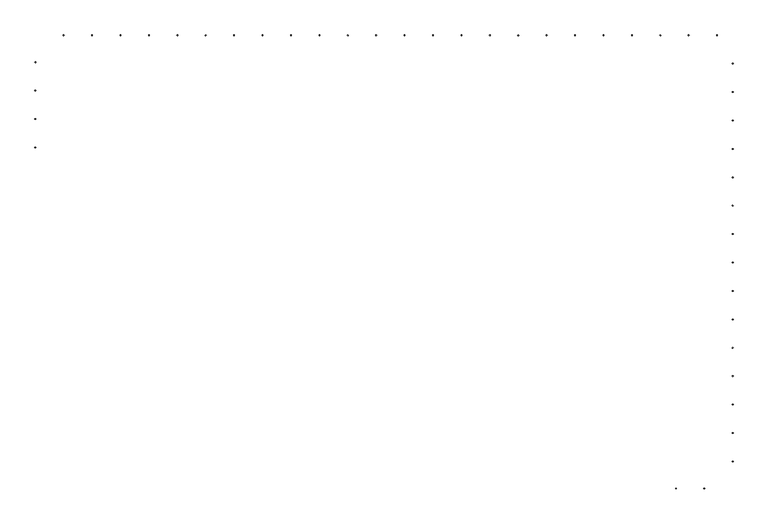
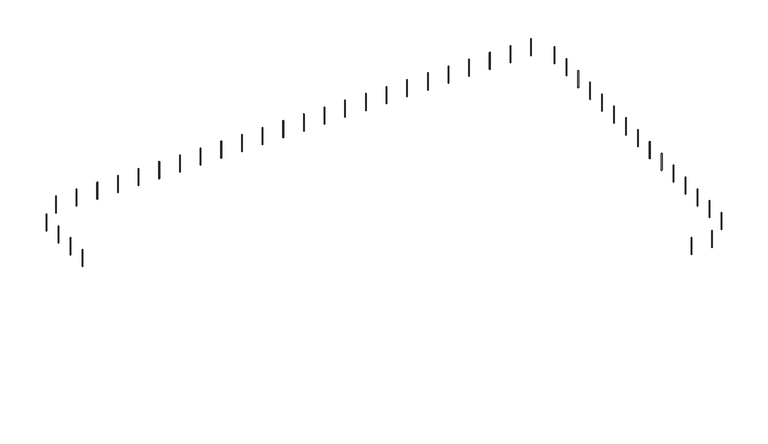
"""IFC4 building model written with IfcOpenShell, lengths in millimetres: railing geometry."""

from ifc_helpers import new_model, si_unit, point, frame, frame_2d, origin, place, context, project, spatial, circle_curve, trimmed, segment, composite_curve, outline, extrude, source, transform, mapped, element, save


def railing_4ebeea9c(model_context):
    return source(origin(), model_context, "Body", "SweptSolid", [
        extrude(outline(composite_curve([segment(trimmed(circle_curve(frame_2d((15965.862022, -9084.0840399)), 12.5), [point((15965.862022, -9096.5840399))], [point((15965.862022, -9071.5840399))], False, "CARTESIAN"), True, "CONTINUOUS"), segment(trimmed(circle_curve(frame_2d((15965.862022, -9084.0840399)), 12.5), [point((15965.862022, -9071.5840399))], [point((15965.862022, -9096.5840399))], False, "CARTESIAN"), True, "CONTINUOUS")], self_intersect=False)), frame((0.0, 0.0, 4000.0), z_axis=(0.0, 0.0, 1.0), x_axis=(1.0, 0.0, 0.0)), (0.0, 0.0, 1.0), 860.0),
        extrude(outline(composite_curve([segment(trimmed(circle_curve(frame_2d((16965.862022, -9084.0840399)), 12.5), [point((16965.862022, -9096.5840399))], [point((16965.862022, -9071.5840399))], False, "CARTESIAN"), True, "CONTINUOUS"), segment(trimmed(circle_curve(frame_2d((16965.862022, -9084.0840399)), 12.5), [point((16965.862022, -9071.5840399))], [point((16965.862022, -9096.5840399))], False, "CARTESIAN"), True, "CONTINUOUS")], self_intersect=False)), frame((0.0, 0.0, 4000.0), z_axis=(0.0, 0.0, 1.0), x_axis=(1.0, 0.0, 0.0)), (0.0, 0.0, 1.0), 860.0),
        extrude(outline(composite_curve([segment(trimmed(circle_curve(frame_2d((17965.862022, -8134.0840399)), 12.5), [point((17978.362022, -8134.0840399))], [point((17953.362022, -8134.0840399))], False, "CARTESIAN"), True, "CONTINUOUS"), segment(trimmed(circle_curve(frame_2d((17965.862022, -8134.0840399)), 12.5), [point((17953.362022, -8134.0840399))], [point((17978.362022, -8134.0840399))], False, "CARTESIAN"), True, "CONTINUOUS")], self_intersect=False)), frame((0.0, 0.0, 4000.0), z_axis=(0.0, 0.0, 1.0), x_axis=(1.0, 0.0, 0.0)), (0.0, 0.0, 1.0), 860.0),
        extrude(outline(composite_curve([segment(trimmed(circle_curve(frame_2d((17965.862022, -7134.0840399)), 12.5), [point((17978.362022, -7134.0840399))], [point((17953.362022, -7134.0840399))], False, "CARTESIAN"), True, "CONTINUOUS"), segment(trimmed(circle_curve(frame_2d((17965.862022, -7134.0840399)), 12.5), [point((17953.362022, -7134.0840399))], [point((17978.362022, -7134.0840399))], False, "CARTESIAN"), True, "CONTINUOUS")], self_intersect=False)), frame((0.0, 0.0, 4000.0), z_axis=(0.0, 0.0, 1.0), x_axis=(1.0, 0.0, 0.0)), (0.0, 0.0, 1.0), 860.0),
        extrude(outline(composite_curve([segment(trimmed(circle_curve(frame_2d((17965.862022, -6134.0840399)), 12.5), [point((17978.362022, -6134.0840399))], [point((17953.362022, -6134.0840399))], False, "CARTESIAN"), True, "CONTINUOUS"), segment(trimmed(circle_curve(frame_2d((17965.862022, -6134.0840399)), 12.5), [point((17953.362022, -6134.0840399))], [point((17978.362022, -6134.0840399))], False, "CARTESIAN"), True, "CONTINUOUS")], self_intersect=False)), frame((0.0, 0.0, 4000.0), z_axis=(0.0, 0.0, 1.0), x_axis=(1.0, 0.0, 0.0)), (0.0, 0.0, 1.0), 860.0),
        extrude(outline(composite_curve([segment(trimmed(circle_curve(frame_2d((17965.862022, -5134.0840399)), 12.5), [point((17978.362022, -5134.0840399))], [point((17953.362022, -5134.0840399))], False, "CARTESIAN"), True, "CONTINUOUS"), segment(trimmed(circle_curve(frame_2d((17965.862022, -5134.0840399)), 12.5), [point((17953.362022, -5134.0840399))], [point((17978.362022, -5134.0840399))], False, "CARTESIAN"), True, "CONTINUOUS")], self_intersect=False)), frame((0.0, 0.0, 4000.0), z_axis=(0.0, 0.0, 1.0), x_axis=(1.0, 0.0, 0.0)), (0.0, 0.0, 1.0), 860.0),
        extrude(outline(composite_curve([segment(trimmed(circle_curve(frame_2d((17965.862022, -4134.0840399)), 12.5), [point((17978.362022, -4134.0840399))], [point((17953.362022, -4134.0840399))], False, "CARTESIAN"), True, "CONTINUOUS"), segment(trimmed(circle_curve(frame_2d((17965.862022, -4134.0840399)), 12.5), [point((17953.362022, -4134.0840399))], [point((17978.362022, -4134.0840399))], False, "CARTESIAN"), True, "CONTINUOUS")], self_intersect=False)), frame((0.0, 0.0, 4000.0), z_axis=(0.0, 0.0, 1.0), x_axis=(1.0, 0.0, 0.0)), (0.0, 0.0, 1.0), 860.0),
        extrude(outline(composite_curve([segment(trimmed(circle_curve(frame_2d((17965.862022, -3134.0840399)), 12.5), [point((17978.362022, -3134.0840399))], [point((17953.362022, -3134.0840399))], False, "CARTESIAN"), True, "CONTINUOUS"), segment(trimmed(circle_curve(frame_2d((17965.862022, -3134.0840399)), 12.5), [point((17953.362022, -3134.0840399))], [point((17978.362022, -3134.0840399))], False, "CARTESIAN"), True, "CONTINUOUS")], self_intersect=False)), frame((0.0, 0.0, 4000.0), z_axis=(0.0, 0.0, 1.0), x_axis=(1.0, 0.0, 0.0)), (0.0, 0.0, 1.0), 860.0),
        extrude(outline(composite_curve([segment(trimmed(circle_curve(frame_2d((17965.862022, -2134.0840399)), 12.5), [point((17978.362022, -2134.0840399))], [point((17953.362022, -2134.0840399))], False, "CARTESIAN"), True, "CONTINUOUS"), segment(trimmed(circle_curve(frame_2d((17965.862022, -2134.0840399)), 12.5), [point((17953.362022, -2134.0840399))], [point((17978.362022, -2134.0840399))], False, "CARTESIAN"), True, "CONTINUOUS")], self_intersect=False)), frame((0.0, 0.0, 4000.0), z_axis=(0.0, 0.0, 1.0), x_axis=(1.0, 0.0, 0.0)), (0.0, 0.0, 1.0), 860.0),
        extrude(outline(composite_curve([segment(trimmed(circle_curve(frame_2d((17965.862022, -1134.0840399)), 12.5), [point((17978.362022, -1134.0840399))], [point((17953.362022, -1134.0840399))], False, "CARTESIAN"), True, "CONTINUOUS"), segment(trimmed(circle_curve(frame_2d((17965.862022, -1134.0840399)), 12.5), [point((17953.362022, -1134.0840399))], [point((17978.362022, -1134.0840399))], False, "CARTESIAN"), True, "CONTINUOUS")], self_intersect=False)), frame((0.0, 0.0, 4000.0), z_axis=(0.0, 0.0, 1.0), x_axis=(1.0, 0.0, 0.0)), (0.0, 0.0, 1.0), 860.0),
        extrude(outline(composite_curve([segment(trimmed(circle_curve(frame_2d((17965.862022, -134.0840399)), 12.5), [point((17978.362022, -134.0840399))], [point((17953.362022, -134.0840399))], False, "CARTESIAN"), True, "CONTINUOUS"), segment(trimmed(circle_curve(frame_2d((17965.862022, -134.0840399)), 12.5), [point((17953.362022, -134.0840399))], [point((17978.362022, -134.0840399))], False, "CARTESIAN"), True, "CONTINUOUS")], self_intersect=False)), frame((0.0, 0.0, 4000.0), z_axis=(0.0, 0.0, 1.0), x_axis=(1.0, 0.0, 0.0)), (0.0, 0.0, 1.0), 860.0),
        extrude(outline(composite_curve([segment(trimmed(circle_curve(frame_2d((17965.862022, 865.9159601)), 12.5), [point((17978.362022, 865.9159601))], [point((17953.362022, 865.9159601))], False, "CARTESIAN"), True, "CONTINUOUS"), segment(trimmed(circle_curve(frame_2d((17965.862022, 865.9159601)), 12.5), [point((17953.362022, 865.9159601))], [point((17978.362022, 865.9159601))], False, "CARTESIAN"), True, "CONTINUOUS")], self_intersect=False)), frame((0.0, 0.0, 4000.0), z_axis=(0.0, 0.0, 1.0), x_axis=(1.0, 0.0, 0.0)), (0.0, 0.0, 1.0), 860.0),
        extrude(outline(composite_curve([segment(trimmed(circle_curve(frame_2d((17965.862022, 1865.9159601)), 12.5), [point((17978.362022, 1865.9159601))], [point((17953.362022, 1865.9159601))], False, "CARTESIAN"), True, "CONTINUOUS"), segment(trimmed(circle_curve(frame_2d((17965.862022, 1865.9159601)), 12.5), [point((17953.362022, 1865.9159601))], [point((17978.362022, 1865.9159601))], False, "CARTESIAN"), True, "CONTINUOUS")], self_intersect=False)), frame((0.0, 0.0, 4000.0), z_axis=(0.0, 0.0, 1.0), x_axis=(1.0, 0.0, 0.0)), (0.0, 0.0, 1.0), 860.0),
        extrude(outline(composite_curve([segment(trimmed(circle_curve(frame_2d((17965.862022, 2865.9159601)), 12.5), [point((17978.362022, 2865.9159601))], [point((17953.362022, 2865.9159601))], False, "CARTESIAN"), True, "CONTINUOUS"), segment(trimmed(circle_curve(frame_2d((17965.862022, 2865.9159601)), 12.5), [point((17953.362022, 2865.9159601))], [point((17978.362022, 2865.9159601))], False, "CARTESIAN"), True, "CONTINUOUS")], self_intersect=False)), frame((0.0, 0.0, 4000.0), z_axis=(0.0, 0.0, 1.0), x_axis=(1.0, 0.0, 0.0)), (0.0, 0.0, 1.0), 860.0),
        extrude(outline(composite_curve([segment(trimmed(circle_curve(frame_2d((17965.862022, 3865.9159601)), 12.5), [point((17978.362022, 3865.9159601))], [point((17953.362022, 3865.9159601))], False, "CARTESIAN"), True, "CONTINUOUS"), segment(trimmed(circle_curve(frame_2d((17965.862022, 3865.9159601)), 12.5), [point((17953.362022, 3865.9159601))], [point((17978.362022, 3865.9159601))], False, "CARTESIAN"), True, "CONTINUOUS")], self_intersect=False)), frame((0.0, 0.0, 4000.0), z_axis=(0.0, 0.0, 1.0), x_axis=(1.0, 0.0, 0.0)), (0.0, 0.0, 1.0), 860.0),
        extrude(outline(composite_curve([segment(trimmed(circle_curve(frame_2d((17965.862022, 4865.9159601)), 12.5), [point((17978.362022, 4865.9159601))], [point((17953.362022, 4865.9159601))], False, "CARTESIAN"), True, "CONTINUOUS"), segment(trimmed(circle_curve(frame_2d((17965.862022, 4865.9159601)), 12.5), [point((17953.362022, 4865.9159601))], [point((17978.362022, 4865.9159601))], False, "CARTESIAN"), True, "CONTINUOUS")], self_intersect=False)), frame((0.0, 0.0, 4000.0), z_axis=(0.0, 0.0, 1.0), x_axis=(1.0, 0.0, 0.0)), (0.0, 0.0, 1.0), 860.0),
        extrude(outline(composite_curve([segment(trimmed(circle_curve(frame_2d((17965.862022, 5865.9159601)), 12.5), [point((17978.362022, 5865.9159601))], [point((17953.362022, 5865.9159601))], False, "CARTESIAN"), True, "CONTINUOUS"), segment(trimmed(circle_curve(frame_2d((17965.862022, 5865.9159601)), 12.5), [point((17953.362022, 5865.9159601))], [point((17978.362022, 5865.9159601))], False, "CARTESIAN"), True, "CONTINUOUS")], self_intersect=False)), frame((0.0, 0.0, 4000.0), z_axis=(0.0, 0.0, 1.0), x_axis=(1.0, 0.0, 0.0)), (0.0, 0.0, 1.0), 860.0),
        extrude(outline(composite_curve([segment(trimmed(circle_curve(frame_2d((17415.862022, 6865.9159601)), 12.5), [point((17415.862022, 6878.4159601))], [point((17415.862022, 6853.4159601))], False, "CARTESIAN"), True, "CONTINUOUS"), segment(trimmed(circle_curve(frame_2d((17415.862022, 6865.9159601)), 12.5), [point((17415.862022, 6853.4159601))], [point((17415.862022, 6878.4159601))], False, "CARTESIAN"), True, "CONTINUOUS")], self_intersect=False)), frame((0.0, 0.0, 4000.0), z_axis=(0.0, 0.0, 1.0), x_axis=(1.0, 0.0, 0.0)), (0.0, 0.0, 1.0), 860.0),
        extrude(outline(composite_curve([segment(trimmed(circle_curve(frame_2d((16415.862022, 6865.9159601)), 12.5), [point((16415.862022, 6878.4159601))], [point((16415.862022, 6853.4159601))], False, "CARTESIAN"), True, "CONTINUOUS"), segment(trimmed(circle_curve(frame_2d((16415.862022, 6865.9159601)), 12.5), [point((16415.862022, 6853.4159601))], [point((16415.862022, 6878.4159601))], False, "CARTESIAN"), True, "CONTINUOUS")], self_intersect=False)), frame((0.0, 0.0, 4000.0), z_axis=(0.0, 0.0, 1.0), x_axis=(1.0, 0.0, 0.0)), (0.0, 0.0, 1.0), 860.0),
        extrude(outline(composite_curve([segment(trimmed(circle_curve(frame_2d((15415.862022, 6865.9159601)), 12.5), [point((15415.862022, 6878.4159601))], [point((15415.862022, 6853.4159601))], False, "CARTESIAN"), True, "CONTINUOUS"), segment(trimmed(circle_curve(frame_2d((15415.862022, 6865.9159601)), 12.5), [point((15415.862022, 6853.4159601))], [point((15415.862022, 6878.4159601))], False, "CARTESIAN"), True, "CONTINUOUS")], self_intersect=False)), frame((0.0, 0.0, 4000.0), z_axis=(0.0, 0.0, 1.0), x_axis=(1.0, 0.0, 0.0)), (0.0, 0.0, 1.0), 860.0),
        extrude(outline(composite_curve([segment(trimmed(circle_curve(frame_2d((14415.862022, 6865.9159601)), 12.5), [point((14415.862022, 6878.4159601))], [point((14415.862022, 6853.4159601))], False, "CARTESIAN"), True, "CONTINUOUS"), segment(trimmed(circle_curve(frame_2d((14415.862022, 6865.9159601)), 12.5), [point((14415.862022, 6853.4159601))], [point((14415.862022, 6878.4159601))], False, "CARTESIAN"), True, "CONTINUOUS")], self_intersect=False)), frame((0.0, 0.0, 4000.0), z_axis=(0.0, 0.0, 1.0), x_axis=(1.0, 0.0, 0.0)), (0.0, 0.0, 1.0), 860.0),
        extrude(outline(composite_curve([segment(trimmed(circle_curve(frame_2d((13415.862022, 6865.9159601)), 12.5), [point((13415.862022, 6878.4159601))], [point((13415.862022, 6853.4159601))], False, "CARTESIAN"), True, "CONTINUOUS"), segment(trimmed(circle_curve(frame_2d((13415.862022, 6865.9159601)), 12.5), [point((13415.862022, 6853.4159601))], [point((13415.862022, 6878.4159601))], False, "CARTESIAN"), True, "CONTINUOUS")], self_intersect=False)), frame((0.0, 0.0, 4000.0), z_axis=(0.0, 0.0, 1.0), x_axis=(1.0, 0.0, 0.0)), (0.0, 0.0, 1.0), 860.0),
        extrude(outline(composite_curve([segment(trimmed(circle_curve(frame_2d((12415.862022, 6865.9159601)), 12.5), [point((12415.862022, 6878.4159601))], [point((12415.862022, 6853.4159601))], False, "CARTESIAN"), True, "CONTINUOUS"), segment(trimmed(circle_curve(frame_2d((12415.862022, 6865.9159601)), 12.5), [point((12415.862022, 6853.4159601))], [point((12415.862022, 6878.4159601))], False, "CARTESIAN"), True, "CONTINUOUS")], self_intersect=False)), frame((0.0, 0.0, 4000.0), z_axis=(0.0, 0.0, 1.0), x_axis=(1.0, 0.0, 0.0)), (0.0, 0.0, 1.0), 860.0),
        extrude(outline(composite_curve([segment(trimmed(circle_curve(frame_2d((11415.862022, 6865.9159601)), 12.5), [point((11415.862022, 6878.4159601))], [point((11415.862022, 6853.4159601))], False, "CARTESIAN"), True, "CONTINUOUS"), segment(trimmed(circle_curve(frame_2d((11415.862022, 6865.9159601)), 12.5), [point((11415.862022, 6853.4159601))], [point((11415.862022, 6878.4159601))], False, "CARTESIAN"), True, "CONTINUOUS")], self_intersect=False)), frame((0.0, 0.0, 4000.0), z_axis=(0.0, 0.0, 1.0), x_axis=(1.0, 0.0, 0.0)), (0.0, 0.0, 1.0), 860.0),
        extrude(outline(composite_curve([segment(trimmed(circle_curve(frame_2d((10415.862022, 6865.9159601)), 12.5), [point((10415.862022, 6878.4159601))], [point((10415.862022, 6853.4159601))], False, "CARTESIAN"), True, "CONTINUOUS"), segment(trimmed(circle_curve(frame_2d((10415.862022, 6865.9159601)), 12.5), [point((10415.862022, 6853.4159601))], [point((10415.862022, 6878.4159601))], False, "CARTESIAN"), True, "CONTINUOUS")], self_intersect=False)), frame((0.0, 0.0, 4000.0), z_axis=(0.0, 0.0, 1.0), x_axis=(1.0, 0.0, 0.0)), (0.0, 0.0, 1.0), 860.0),
        extrude(outline(composite_curve([segment(trimmed(circle_curve(frame_2d((9415.862022, 6865.9159601)), 12.5), [point((9415.862022, 6878.4159601))], [point((9415.862022, 6853.4159601))], False, "CARTESIAN"), True, "CONTINUOUS"), segment(trimmed(circle_curve(frame_2d((9415.862022, 6865.9159601)), 12.5), [point((9415.862022, 6853.4159601))], [point((9415.862022, 6878.4159601))], False, "CARTESIAN"), True, "CONTINUOUS")], self_intersect=False)), frame((0.0, 0.0, 4000.0), z_axis=(0.0, 0.0, 1.0), x_axis=(1.0, 0.0, 0.0)), (0.0, 0.0, 1.0), 860.0),
        extrude(outline(composite_curve([segment(trimmed(circle_curve(frame_2d((8415.862022, 6865.9159601)), 12.5), [point((8415.862022, 6878.4159601))], [point((8415.862022, 6853.4159601))], False, "CARTESIAN"), True, "CONTINUOUS"), segment(trimmed(circle_curve(frame_2d((8415.862022, 6865.9159601)), 12.5), [point((8415.862022, 6853.4159601))], [point((8415.862022, 6878.4159601))], False, "CARTESIAN"), True, "CONTINUOUS")], self_intersect=False)), frame((0.0, 0.0, 4000.0), z_axis=(0.0, 0.0, 1.0), x_axis=(1.0, 0.0, 0.0)), (0.0, 0.0, 1.0), 860.0),
        extrude(outline(composite_curve([segment(trimmed(circle_curve(frame_2d((7415.862022, 6865.9159601)), 12.5), [point((7415.862022, 6878.4159601))], [point((7415.862022, 6853.4159601))], False, "CARTESIAN"), True, "CONTINUOUS"), segment(trimmed(circle_curve(frame_2d((7415.862022, 6865.9159601)), 12.5), [point((7415.862022, 6853.4159601))], [point((7415.862022, 6878.4159601))], False, "CARTESIAN"), True, "CONTINUOUS")], self_intersect=False)), frame((0.0, 0.0, 4000.0), z_axis=(0.0, 0.0, 1.0), x_axis=(1.0, 0.0, 0.0)), (0.0, 0.0, 1.0), 860.0),
        extrude(outline(composite_curve([segment(trimmed(circle_curve(frame_2d((6415.862022, 6865.9159601)), 12.5), [point((6415.862022, 6878.4159601))], [point((6415.862022, 6853.4159601))], False, "CARTESIAN"), True, "CONTINUOUS"), segment(trimmed(circle_curve(frame_2d((6415.862022, 6865.9159601)), 12.5), [point((6415.862022, 6853.4159601))], [point((6415.862022, 6878.4159601))], False, "CARTESIAN"), True, "CONTINUOUS")], self_intersect=False)), frame((0.0, 0.0, 4000.0), z_axis=(0.0, 0.0, 1.0), x_axis=(1.0, 0.0, 0.0)), (0.0, 0.0, 1.0), 860.0),
        extrude(outline(composite_curve([segment(trimmed(circle_curve(frame_2d((5415.862022, 6865.9159601)), 12.5), [point((5415.862022, 6878.4159601))], [point((5415.862022, 6853.4159601))], False, "CARTESIAN"), True, "CONTINUOUS"), segment(trimmed(circle_curve(frame_2d((5415.862022, 6865.9159601)), 12.5), [point((5415.862022, 6853.4159601))], [point((5415.862022, 6878.4159601))], False, "CARTESIAN"), True, "CONTINUOUS")], self_intersect=False)), frame((0.0, 0.0, 4000.0), z_axis=(0.0, 0.0, 1.0), x_axis=(1.0, 0.0, 0.0)), (0.0, 0.0, 1.0), 860.0),
        extrude(outline(composite_curve([segment(trimmed(circle_curve(frame_2d((4415.862022, 6865.9159601)), 12.5), [point((4415.862022, 6878.4159601))], [point((4415.862022, 6853.4159601))], False, "CARTESIAN"), True, "CONTINUOUS"), segment(trimmed(circle_curve(frame_2d((4415.862022, 6865.9159601)), 12.5), [point((4415.862022, 6853.4159601))], [point((4415.862022, 6878.4159601))], False, "CARTESIAN"), True, "CONTINUOUS")], self_intersect=False)), frame((0.0, 0.0, 4000.0), z_axis=(0.0, 0.0, 1.0), x_axis=(1.0, 0.0, 0.0)), (0.0, 0.0, 1.0), 860.0),
        extrude(outline(composite_curve([segment(trimmed(circle_curve(frame_2d((3415.862022, 6865.9159601)), 12.5), [point((3415.862022, 6878.4159601))], [point((3415.862022, 6853.4159601))], False, "CARTESIAN"), True, "CONTINUOUS"), segment(trimmed(circle_curve(frame_2d((3415.862022, 6865.9159601)), 12.5), [point((3415.862022, 6853.4159601))], [point((3415.862022, 6878.4159601))], False, "CARTESIAN"), True, "CONTINUOUS")], self_intersect=False)), frame((0.0, 0.0, 4000.0), z_axis=(0.0, 0.0, 1.0), x_axis=(1.0, 0.0, 0.0)), (0.0, 0.0, 1.0), 860.0),
        extrude(outline(composite_curve([segment(trimmed(circle_curve(frame_2d((2415.862022, 6865.9159601)), 12.5), [point((2415.862022, 6878.4159601))], [point((2415.862022, 6853.4159601))], False, "CARTESIAN"), True, "CONTINUOUS"), segment(trimmed(circle_curve(frame_2d((2415.862022, 6865.9159601)), 12.5), [point((2415.862022, 6853.4159601))], [point((2415.862022, 6878.4159601))], False, "CARTESIAN"), True, "CONTINUOUS")], self_intersect=False)), frame((0.0, 0.0, 4000.0), z_axis=(0.0, 0.0, 1.0), x_axis=(1.0, 0.0, 0.0)), (0.0, 0.0, 1.0), 860.0),
        extrude(outline(composite_curve([segment(trimmed(circle_curve(frame_2d((1415.862022, 6865.9159601)), 12.5), [point((1415.862022, 6878.4159601))], [point((1415.862022, 6853.4159601))], False, "CARTESIAN"), True, "CONTINUOUS"), segment(trimmed(circle_curve(frame_2d((1415.862022, 6865.9159601)), 12.5), [point((1415.862022, 6853.4159601))], [point((1415.862022, 6878.4159601))], False, "CARTESIAN"), True, "CONTINUOUS")], self_intersect=False)), frame((0.0, 0.0, 4000.0), z_axis=(0.0, 0.0, 1.0), x_axis=(1.0, 0.0, 0.0)), (0.0, 0.0, 1.0), 860.0),
        extrude(outline(composite_curve([segment(trimmed(circle_curve(frame_2d((415.862022, 6865.9159601)), 12.5), [point((415.862022, 6878.4159601))], [point((415.862022, 6853.4159601))], False, "CARTESIAN"), True, "CONTINUOUS"), segment(trimmed(circle_curve(frame_2d((415.862022, 6865.9159601)), 12.5), [point((415.862022, 6853.4159601))], [point((415.862022, 6878.4159601))], False, "CARTESIAN"), True, "CONTINUOUS")], self_intersect=False)), frame((0.0, 0.0, 4000.0), z_axis=(0.0, 0.0, 1.0), x_axis=(1.0, 0.0, 0.0)), (0.0, 0.0, 1.0), 860.0),
        extrude(outline(composite_curve([segment(trimmed(circle_curve(frame_2d((-584.137978, 6865.9159601)), 12.5), [point((-584.137978, 6878.4159601))], [point((-584.137978, 6853.4159601))], False, "CARTESIAN"), True, "CONTINUOUS"), segment(trimmed(circle_curve(frame_2d((-584.137978, 6865.9159601)), 12.5), [point((-584.137978, 6853.4159601))], [point((-584.137978, 6878.4159601))], False, "CARTESIAN"), True, "CONTINUOUS")], self_intersect=False)), frame((0.0, 0.0, 4000.0), z_axis=(0.0, 0.0, 1.0), x_axis=(1.0, 0.0, 0.0)), (0.0, 0.0, 1.0), 860.0),
        extrude(outline(composite_curve([segment(trimmed(circle_curve(frame_2d((-1584.137978, 6865.9159601)), 12.5), [point((-1584.137978, 6878.4159601))], [point((-1584.137978, 6853.4159601))], False, "CARTESIAN"), True, "CONTINUOUS"), segment(trimmed(circle_curve(frame_2d((-1584.137978, 6865.9159601)), 12.5), [point((-1584.137978, 6853.4159601))], [point((-1584.137978, 6878.4159601))], False, "CARTESIAN"), True, "CONTINUOUS")], self_intersect=False)), frame((0.0, 0.0, 4000.0), z_axis=(0.0, 0.0, 1.0), x_axis=(1.0, 0.0, 0.0)), (0.0, 0.0, 1.0), 860.0),
        extrude(outline(composite_curve([segment(trimmed(circle_curve(frame_2d((-2584.137978, 6865.9159601)), 12.5), [point((-2584.137978, 6878.4159601))], [point((-2584.137978, 6853.4159601))], False, "CARTESIAN"), True, "CONTINUOUS"), segment(trimmed(circle_curve(frame_2d((-2584.137978, 6865.9159601)), 12.5), [point((-2584.137978, 6853.4159601))], [point((-2584.137978, 6878.4159601))], False, "CARTESIAN"), True, "CONTINUOUS")], self_intersect=False)), frame((0.0, 0.0, 4000.0), z_axis=(0.0, 0.0, 1.0), x_axis=(1.0, 0.0, 0.0)), (0.0, 0.0, 1.0), 860.0),
        extrude(outline(composite_curve([segment(trimmed(circle_curve(frame_2d((-3584.137978, 6865.9159601)), 12.5), [point((-3584.137978, 6878.4159601))], [point((-3584.137978, 6853.4159601))], False, "CARTESIAN"), True, "CONTINUOUS"), segment(trimmed(circle_curve(frame_2d((-3584.137978, 6865.9159601)), 12.5), [point((-3584.137978, 6853.4159601))], [point((-3584.137978, 6878.4159601))], False, "CARTESIAN"), True, "CONTINUOUS")], self_intersect=False)), frame((0.0, 0.0, 4000.0), z_axis=(0.0, 0.0, 1.0), x_axis=(1.0, 0.0, 0.0)), (0.0, 0.0, 1.0), 860.0),
        extrude(outline(composite_curve([segment(trimmed(circle_curve(frame_2d((-4584.137978, 6865.9159601)), 12.5), [point((-4584.137978, 6878.4159601))], [point((-4584.137978, 6853.4159601))], False, "CARTESIAN"), True, "CONTINUOUS"), segment(trimmed(circle_curve(frame_2d((-4584.137978, 6865.9159601)), 12.5), [point((-4584.137978, 6853.4159601))], [point((-4584.137978, 6878.4159601))], False, "CARTESIAN"), True, "CONTINUOUS")], self_intersect=False)), frame((0.0, 0.0, 4000.0), z_axis=(0.0, 0.0, 1.0), x_axis=(1.0, 0.0, 0.0)), (0.0, 0.0, 1.0), 860.0),
        extrude(outline(composite_curve([segment(trimmed(circle_curve(frame_2d((-5584.137978, 6865.9159601)), 12.5), [point((-5584.137978, 6878.4159601))], [point((-5584.137978, 6853.4159601))], False, "CARTESIAN"), True, "CONTINUOUS"), segment(trimmed(circle_curve(frame_2d((-5584.137978, 6865.9159601)), 12.5), [point((-5584.137978, 6853.4159601))], [point((-5584.137978, 6878.4159601))], False, "CARTESIAN"), True, "CONTINUOUS")], self_intersect=False)), frame((0.0, 0.0, 4000.0), z_axis=(0.0, 0.0, 1.0), x_axis=(1.0, 0.0, 0.0)), (0.0, 0.0, 1.0), 860.0),
        extrude(outline(composite_curve([segment(trimmed(circle_curve(frame_2d((-6584.137978, 5915.9159601)), 12.5), [point((-6596.637978, 5915.9159601))], [point((-6571.637978, 5915.9159601))], False, "CARTESIAN"), True, "CONTINUOUS"), segment(trimmed(circle_curve(frame_2d((-6584.137978, 5915.9159601)), 12.5), [point((-6571.637978, 5915.9159601))], [point((-6596.637978, 5915.9159601))], False, "CARTESIAN"), True, "CONTINUOUS")], self_intersect=False)), frame((0.0, 0.0, 4000.0), z_axis=(0.0, 0.0, 1.0), x_axis=(1.0, 0.0, 0.0)), (0.0, 0.0, 1.0), 860.0),
        extrude(outline(composite_curve([segment(trimmed(circle_curve(frame_2d((-6584.137978, 4915.9159601)), 12.5), [point((-6596.637978, 4915.9159601))], [point((-6571.637978, 4915.9159601))], False, "CARTESIAN"), True, "CONTINUOUS"), segment(trimmed(circle_curve(frame_2d((-6584.137978, 4915.9159601)), 12.5), [point((-6571.637978, 4915.9159601))], [point((-6596.637978, 4915.9159601))], False, "CARTESIAN"), True, "CONTINUOUS")], self_intersect=False)), frame((0.0, 0.0, 4000.0), z_axis=(0.0, 0.0, 1.0), x_axis=(1.0, 0.0, 0.0)), (0.0, 0.0, 1.0), 860.0),
        extrude(outline(composite_curve([segment(trimmed(circle_curve(frame_2d((-6584.137978, 3915.9159601)), 12.5), [point((-6596.637978, 3915.9159601))], [point((-6571.637978, 3915.9159601))], False, "CARTESIAN"), True, "CONTINUOUS"), segment(trimmed(circle_curve(frame_2d((-6584.137978, 3915.9159601)), 12.5), [point((-6571.637978, 3915.9159601))], [point((-6596.637978, 3915.9159601))], False, "CARTESIAN"), True, "CONTINUOUS")], self_intersect=False)), frame((0.0, 0.0, 4000.0), z_axis=(0.0, 0.0, 1.0), x_axis=(1.0, 0.0, 0.0)), (0.0, 0.0, 1.0), 860.0),
        extrude(outline(composite_curve([segment(trimmed(circle_curve(frame_2d((-6584.137978, 2915.9159601)), 12.5), [point((-6596.637978, 2915.9159601))], [point((-6571.637978, 2915.9159601))], False, "CARTESIAN"), True, "CONTINUOUS"), segment(trimmed(circle_curve(frame_2d((-6584.137978, 2915.9159601)), 12.5), [point((-6571.637978, 2915.9159601))], [point((-6596.637978, 2915.9159601))], False, "CARTESIAN"), True, "CONTINUOUS")], self_intersect=False)), frame((0.0, 0.0, 4000.0), z_axis=(0.0, 0.0, 1.0), x_axis=(1.0, 0.0, 0.0)), (0.0, 0.0, 1.0), 860.0),
    ])


if __name__ == "__main__":
    model = new_model("IFC4")
    model_context = context("Model", 3, world=origin())
    ifc_project = project(units=[si_unit("LENGTHUNIT", "METRE", prefix="MILLI")], contexts=[model_context])
    site = spatial("IfcSite", under=ifc_project)
    building = spatial("IfcBuilding", under=site)
    placement = place(None, origin())
    railing_shape = railing_4ebeea9c(model_context)
    element("IfcRailing", 1, ObjectType="Tuyau 900\xa0mm", at=placement, inside=building, context=model_context, shape_type="MappedRepresentation", body=[
        mapped(railing_shape, transform((0.0, 0.0, 0.0), x_axis=(1.0, 0.0, 0.0), y_axis=(0.0, 1.0, 0.0), z_axis=(0.0, 0.0, 1.0))),
    ])
    save(model, "model.ifc")
